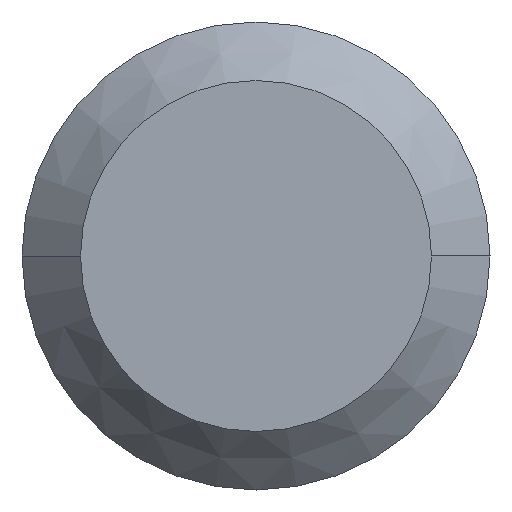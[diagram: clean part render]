
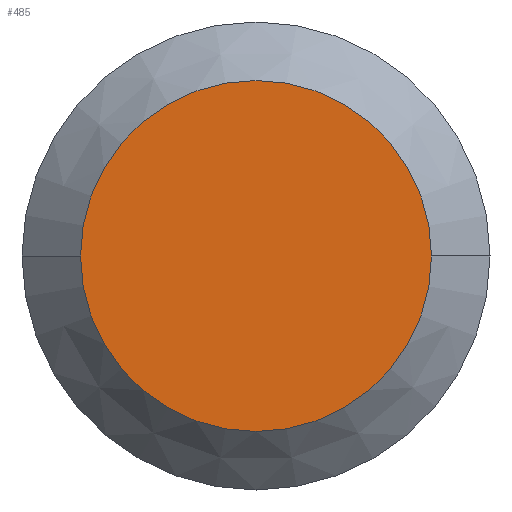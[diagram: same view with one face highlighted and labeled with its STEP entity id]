
A CAD part, left-side view. The second image highlights one B-rep face of the part: STEP entity #485.
In plain terms, the highlighted planar face has unit normal (-1, 0, 0).
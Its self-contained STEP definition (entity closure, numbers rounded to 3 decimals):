
#13 = DIRECTION ( 'NONE',  ( -1., 0., 0. ) ) ;
#15 = AXIS2_PLACEMENT_3D ( 'NONE', #37, #327, #520 ) ;
#25 = CIRCLE ( 'NONE', #15, 1.5 ) ;
#26 = AXIS2_PLACEMENT_3D ( 'NONE', #47, #374, #106 ) ;
#37 = CARTESIAN_POINT ( 'NONE',  ( -43., 0., 0. ) ) ;
#41 = CIRCLE ( 'NONE', #26, 1.5 ) ;
#47 = CARTESIAN_POINT ( 'NONE',  ( -43., 0., 0. ) ) ;
#106 = DIRECTION ( 'NONE',  ( 0., 1., 0. ) ) ;
#163 = EDGE_CURVE ( 'NONE', #337, #324, #41, .T. ) ;
#166 = ORIENTED_EDGE ( 'NONE', *, *, #176, .F. ) ;
#176 = EDGE_CURVE ( 'NONE', #324, #337, #25, .T. ) ;
#206 = FACE_OUTER_BOUND ( 'NONE', #278, .T. ) ;
#226 = CARTESIAN_POINT ( 'NONE',  ( -43., 0., 0. ) ) ;
#240 = ORIENTED_EDGE ( 'NONE', *, *, #163, .F. ) ;
#278 = EDGE_LOOP ( 'NONE', ( #240, #166 ) ) ;
#324 = VERTEX_POINT ( 'NONE', #347 ) ;
#327 = DIRECTION ( 'NONE',  ( 1., 0., 0. ) ) ;
#337 = VERTEX_POINT ( 'NONE', #382 ) ;
#347 = CARTESIAN_POINT ( 'NONE',  ( -43., -1.5, 0. ) ) ;
#353 = DIRECTION ( 'NONE',  ( 0., -1., 0. ) ) ;
#374 = DIRECTION ( 'NONE',  ( 1., 0., 0. ) ) ;
#382 = CARTESIAN_POINT ( 'NONE',  ( -43., 1.5, 0. ) ) ;
#485 = ADVANCED_FACE ( 'NONE', ( #206 ), #509, .T. ) ;
#499 = AXIS2_PLACEMENT_3D ( 'NONE', #226, #13, #353 ) ;
#509 = PLANE ( 'NONE',  #499 ) ;
#520 = DIRECTION ( 'NONE',  ( 0., 1., 0. ) ) ;
